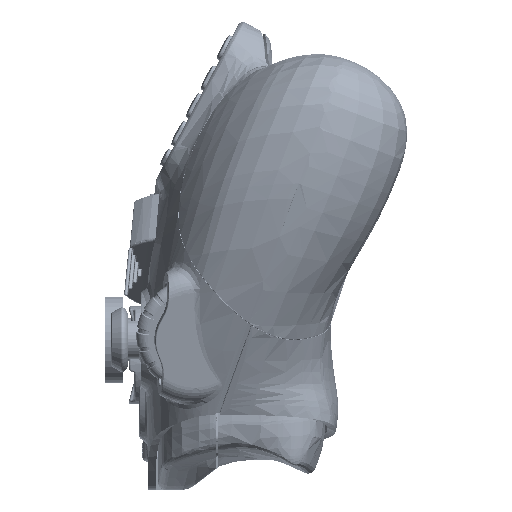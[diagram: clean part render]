
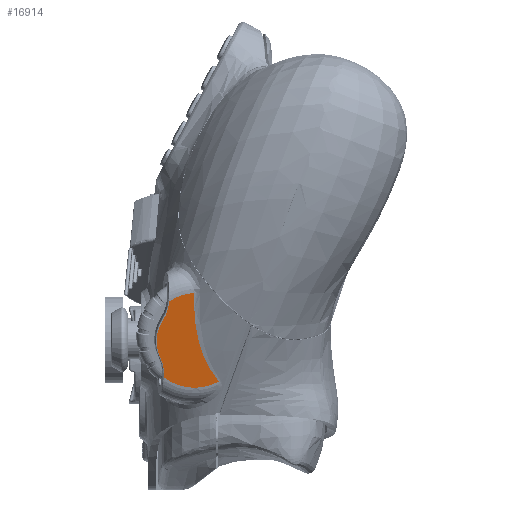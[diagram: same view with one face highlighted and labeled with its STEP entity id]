
A CAD part, left-side view. The second image highlights one B-rep face of the part: STEP entity #16914.
In plain terms, the highlighted planar face has unit normal (-0.961, -0.122, -0.247).
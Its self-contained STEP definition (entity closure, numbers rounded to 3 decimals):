
#8205 = CARTESIAN_POINT ( 'NONE',  ( -63.011, -2.748, 1.933 ) ) ;
#16914 = ADVANCED_FACE ( 'NONE', ( #565412 ), #498692, .T. ) ;
#43454 = VERTEX_POINT ( 'NONE', #512612 ) ;
#66010 = CARTESIAN_POINT ( 'NONE',  ( -63.609, 16.284, -5.165 ) ) ;
#66022 = DIRECTION ( 'NONE',  ( -0.249, 0., 0.969 ) ) ;
#92170 = DIRECTION ( 'NONE',  ( -0.961, -0.122, -0.247 ) ) ;
#100718 = B_SPLINE_CURVE_WITH_KNOTS ( 'NONE', 3,
 ( #617672, #479208, #873450, #930016, #305330, #238630, #382142, #474153, #464049, #8205, #1006903, #243661, #551031, #397352, #248712, #694563 ),
 .UNSPECIFIED., .F., .F.,
 ( 4, 2, 2, 2, 2, 2, 2, 4 ),
 ( 0., 0.003, 0.006, 0.007, 0.009, 0.012, 0.018, 0.024 ),
 .UNSPECIFIED. ) ;
#114949 = ORIENTED_EDGE ( 'NONE', *, *, #856529, .T. ) ;
#136485 = CIRCLE ( 'NONE', #365255, 10.3 ) ;
#164017 = CARTESIAN_POINT ( 'NONE',  ( -63.587, -1.673, 3.642 ) ) ;
#170500 = ORIENTED_EDGE ( 'NONE', *, *, #361982, .T. ) ;
#181657 = EDGE_CURVE ( 'NONE', #756485, #43454, #136485, .T. ) ;
#201526 = CARTESIAN_POINT ( 'NONE',  ( -63.598, 7.036, -0.63 ) ) ;
#217354 = CIRCLE ( 'NONE', #789827, 9.7 ) ;
#223942 = EDGE_CURVE ( 'NONE', #999764, #558240, #100718, .T. ) ;
#238630 = CARTESIAN_POINT ( 'NONE',  ( -62.051, -3.978, -1.195 ) ) ;
#239106 = AXIS2_PLACEMENT_3D ( 'NONE', #964711, #903004, #273254 ) ;
#242803 = CARTESIAN_POINT ( 'NONE',  ( -68.268, 15.035, 13.589 ) ) ;
#243661 = CARTESIAN_POINT ( 'NONE',  ( -64.082, -1.807, 5.635 ) ) ;
#248712 = CARTESIAN_POINT ( 'NONE',  ( -66.128, -1.223, 13.312 ) ) ;
#249759 = EDGE_LOOP ( 'NONE', ( #541863, #887958, #170500, #886741, #712900, #114949 ) ) ;
#273254 = DIRECTION ( 'NONE',  ( -0.249, 0., 0.969 ) ) ;
#279119 = CARTESIAN_POINT ( 'NONE',  ( -60.284, -7.263, -6.45 ) ) ;
#287512 = AXIS2_PLACEMENT_3D ( 'NONE', #892886, #585526, #877778 ) ;
#288586 = VERTEX_POINT ( 'NONE', #878041 ) ;
#305330 = CARTESIAN_POINT ( 'NONE',  ( -61.641, -4.611, -2.478 ) ) ;
#305710 = EDGE_CURVE ( 'NONE', #558240, #1005803, #801872, .T. ) ;
#311072 = CARTESIAN_POINT ( 'NONE',  ( -66.615, -1.305, 15.248 ) ) ;
#319649 = DIRECTION ( 'NONE',  ( 0.961, 0.122, 0.247 ) ) ;
#358475 = CARTESIAN_POINT ( 'NONE',  ( -66.864, 4.839, 13.174 ) ) ;
#360307 = AXIS2_PLACEMENT_3D ( 'NONE', #164017, #92170, #947376 ) ;
#361982 = EDGE_CURVE ( 'NONE', #43454, #999764, #386722, .T. ) ;
#365255 = AXIS2_PLACEMENT_3D ( 'NONE', #66010, #383406, #508111 ) ;
#382142 = CARTESIAN_POINT ( 'NONE',  ( -62.188, -3.779, -0.76 ) ) ;
#383406 = DIRECTION ( 'NONE',  ( 0.961, 0.122, 0.247 ) ) ;
#386722 = CIRCLE ( 'NONE', #239106, 12. ) ;
#388490 = CARTESIAN_POINT ( 'NONE',  ( -63.587, -1.673, 3.642 ) ) ;
#397352 = CARTESIAN_POINT ( 'NONE',  ( -65.629, -1.242, 11.38 ) ) ;
#401458 = AXIS2_PLACEMENT_3D ( 'NONE', #242803, #319649, #637051 ) ;
#464049 = CARTESIAN_POINT ( 'NONE',  ( -62.601, -3.232, 0.574 ) ) ;
#474153 = CARTESIAN_POINT ( 'NONE',  ( -62.463, -3.406, 0.124 ) ) ;
#479208 = CARTESIAN_POINT ( 'NONE',  ( -60.554, -6.666, -5.693 ) ) ;
#498692 = PLANE ( 'NONE',  #287512 ) ;
#508111 = DIRECTION ( 'NONE',  ( -0.249, 0., 0.969 ) ) ;
#512612 = CARTESIAN_POINT ( 'NONE',  ( -62.245, 6.078, -5.421 ) ) ;
#541863 = ORIENTED_EDGE ( 'NONE', *, *, #740009, .T. ) ;
#551031 = CARTESIAN_POINT ( 'NONE',  ( -64.604, -1.535, 7.531 ) ) ;
#558240 = VERTEX_POINT ( 'NONE', #311072 ) ;
#565412 = FACE_OUTER_BOUND ( 'NONE', #249759, .T. ) ;
#585526 = DIRECTION ( 'NONE',  ( -0.961, -0.122, -0.247 ) ) ;
#617672 = CARTESIAN_POINT ( 'NONE',  ( -60.284, -7.263, -6.45 ) ) ;
#637051 = DIRECTION ( 'NONE',  ( -0.249, 0., 0.969 ) ) ;
#685742 = DIRECTION ( 'NONE',  ( -0.961, -0.122, -0.247 ) ) ;
#694563 = CARTESIAN_POINT ( 'NONE',  ( -66.615, -1.305, 15.248 ) ) ;
#712900 = ORIENTED_EDGE ( 'NONE', *, *, #305710, .T. ) ;
#740009 = EDGE_CURVE ( 'NONE', #288586, #756485, #217354, .T. ) ;
#756485 = VERTEX_POINT ( 'NONE', #201526 ) ;
#789827 = AXIS2_PLACEMENT_3D ( 'NONE', #388490, #685742, #66022 ) ;
#801872 = CIRCLE ( 'NONE', #360307, 12. ) ;
#842971 = CIRCLE ( 'NONE', #401458, 10.3 ) ;
#856529 = EDGE_CURVE ( 'NONE', #1005803, #288586, #842971, .T. ) ;
#873450 = CARTESIAN_POINT ( 'NONE',  ( -60.825, -6.11, -4.913 ) ) ;
#877778 = DIRECTION ( 'NONE',  ( -0.249, 0., 0.969 ) ) ;
#878041 = CARTESIAN_POINT ( 'NONE',  ( -65.857, 6.43, 8.466 ) ) ;
#886741 = ORIENTED_EDGE ( 'NONE', *, *, #223942, .T. ) ;
#887958 = ORIENTED_EDGE ( 'NONE', *, *, #181657, .T. ) ;
#892886 = CARTESIAN_POINT ( 'NONE',  ( -68.268, 15.035, 13.589 ) ) ;
#903004 = DIRECTION ( 'NONE',  ( -0.961, -0.122, -0.247 ) ) ;
#930016 = CARTESIAN_POINT ( 'NONE',  ( -61.369, -5.082, -3.306 ) ) ;
#947376 = DIRECTION ( 'NONE',  ( -0.249, 0., 0.969 ) ) ;
#964711 = CARTESIAN_POINT ( 'NONE',  ( -63.587, -1.673, 3.642 ) ) ;
#999764 = VERTEX_POINT ( 'NONE', #279119 ) ;
#1005803 = VERTEX_POINT ( 'NONE', #358475 ) ;
#1006903 = CARTESIAN_POINT ( 'NONE',  ( -63.281, -2.479, 2.851 ) ) ;
